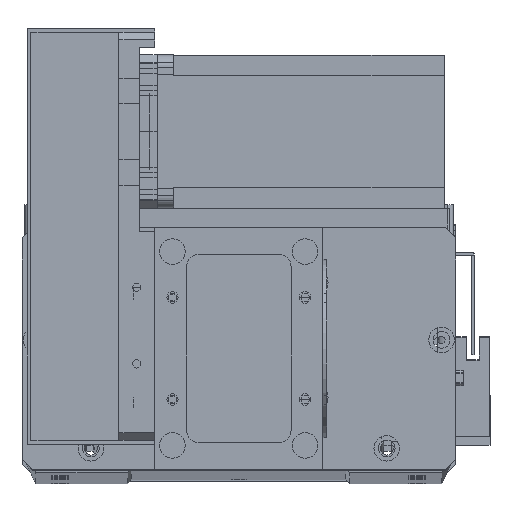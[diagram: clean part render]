
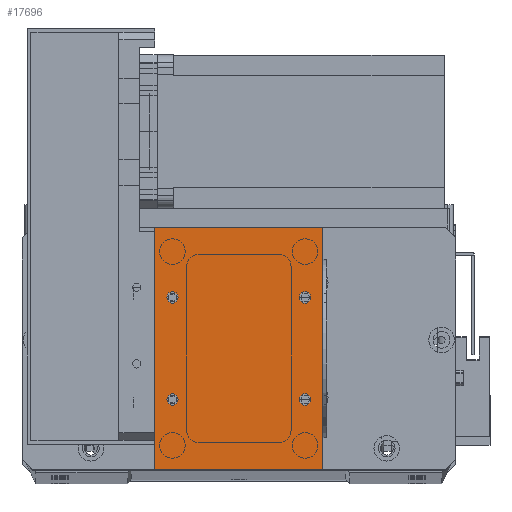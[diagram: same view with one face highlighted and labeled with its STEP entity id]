
A CAD part, top view. The second image highlights one B-rep face of the part: STEP entity #17696.
In plain terms, the highlighted planar face has unit normal (0, 0, 1).
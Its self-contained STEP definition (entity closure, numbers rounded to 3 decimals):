
#98 = LINE ( 'NONE', #32540, #27104 ) ;
#137 = AXIS2_PLACEMENT_3D ( 'NONE', #20343, #4631, #22936 ) ;
#183 = ORIENTED_EDGE ( 'NONE', *, *, #9936, .T. ) ;
#423 = EDGE_LOOP ( 'NONE', ( #29630, #813 ) ) ;
#566 = EDGE_LOOP ( 'NONE', ( #14126, #20126 ) ) ;
#680 = ORIENTED_EDGE ( 'NONE', *, *, #9781, .F. ) ;
#813 = ORIENTED_EDGE ( 'NONE', *, *, #31979, .F. ) ;
#1108 = CIRCLE ( 'NONE', #12745, 2.25 ) ;
#1715 = CARTESIAN_POINT ( 'NONE',  ( 0., 0., 2. ) ) ;
#1872 = CARTESIAN_POINT ( 'NONE',  ( 4.75, 27.5, 2. ) ) ;
#2019 = VERTEX_POINT ( 'NONE', #28568 ) ;
#2025 = EDGE_CURVE ( 'NONE', #27644, #2419, #22647, .T. ) ;
#2419 = VERTEX_POINT ( 'NONE', #12682 ) ;
#2570 = VECTOR ( 'NONE', #26040, 1000. ) ;
#2941 = CARTESIAN_POINT ( 'NONE',  ( 66., 0., 2. ) ) ;
#3159 = EDGE_LOOP ( 'NONE', ( #27679, #18419 ) ) ;
#3311 = EDGE_CURVE ( 'NONE', #2019, #19807, #12752, .T. ) ;
#3390 = VERTEX_POINT ( 'NONE', #19901 ) ;
#3766 = FACE_BOUND ( 'NONE', #566, .T. ) ;
#3945 = CIRCLE ( 'NONE', #5704, 2.25 ) ;
#4112 = AXIS2_PLACEMENT_3D ( 'NONE', #6244, #24556, #8884 ) ;
#4333 = CIRCLE ( 'NONE', #137, 2.25 ) ;
#4429 = DIRECTION ( 'NONE',  ( 0., 0., -1. ) ) ;
#4631 = DIRECTION ( 'NONE',  ( 0., 0., 1. ) ) ;
#4838 = EDGE_LOOP ( 'NONE', ( #680, #14707 ) ) ;
#4949 = CIRCLE ( 'NONE', #12292, 2.25 ) ;
#4991 = ORIENTED_EDGE ( 'NONE', *, *, #17581, .T. ) ;
#5111 = CARTESIAN_POINT ( 'NONE',  ( 0., 0., 2. ) ) ;
#5704 = AXIS2_PLACEMENT_3D ( 'NONE', #30830, #15224, #33428 ) ;
#5834 = ORIENTED_EDGE ( 'NONE', *, *, #26594, .T. ) ;
#6244 = CARTESIAN_POINT ( 'NONE',  ( 7., 27.5, 2. ) ) ;
#6371 = EDGE_CURVE ( 'NONE', #19264, #28240, #28930, .T. ) ;
#6680 = CIRCLE ( 'NONE', #21573, 2.25 ) ;
#7200 = CARTESIAN_POINT ( 'NONE',  ( 61.25, 67.5, 2. ) ) ;
#8884 = DIRECTION ( 'NONE',  ( 1., 0., 0. ) ) ;
#9781 = EDGE_CURVE ( 'NONE', #2419, #27644, #6680, .T. ) ;
#9936 = EDGE_CURVE ( 'NONE', #28240, #24590, #16522, .T. ) ;
#9969 = VERTEX_POINT ( 'NONE', #26150 ) ;
#10069 = CARTESIAN_POINT ( 'NONE',  ( 4.75, 67.5, 2. ) ) ;
#10396 = CARTESIAN_POINT ( 'NONE',  ( 0., 0., 2. ) ) ;
#10458 = DIRECTION ( 'NONE',  ( 0., 0., 1. ) ) ;
#10737 = FACE_BOUND ( 'NONE', #423, .T. ) ;
#11706 = DIRECTION ( 'NONE',  ( 0., 0., 1. ) ) ;
#12201 = CARTESIAN_POINT ( 'NONE',  ( 59., 67.5, 2. ) ) ;
#12292 = AXIS2_PLACEMENT_3D ( 'NONE', #26088, #10458, #28730 ) ;
#12495 = CARTESIAN_POINT ( 'NONE',  ( 7., 67.5, 2. ) ) ;
#12682 = CARTESIAN_POINT ( 'NONE',  ( 9.25, 67.5, 2. ) ) ;
#12745 = AXIS2_PLACEMENT_3D ( 'NONE', #27362, #11706, #29974 ) ;
#12752 = CIRCLE ( 'NONE', #4112, 2.25 ) ;
#13497 = CARTESIAN_POINT ( 'NONE',  ( 7., 67.5, 2. ) ) ;
#14126 = ORIENTED_EDGE ( 'NONE', *, *, #18450, .F. ) ;
#14226 = EDGE_CURVE ( 'NONE', #23288, #3390, #1108, .T. ) ;
#14296 = DIRECTION ( 'NONE',  ( 0., 1., 0. ) ) ;
#14347 = CIRCLE ( 'NONE', #26704, 2.25 ) ;
#14707 = ORIENTED_EDGE ( 'NONE', *, *, #2025, .F. ) ;
#14845 = DIRECTION ( 'NONE',  ( 1., 0., 0. ) ) ;
#15143 = DIRECTION ( 'NONE',  ( 1., 0., 0. ) ) ;
#15224 = DIRECTION ( 'NONE',  ( 0., 0., 1. ) ) ;
#15571 = EDGE_CURVE ( 'NONE', #19807, #2019, #4333, .T. ) ;
#16012 = AXIS2_PLACEMENT_3D ( 'NONE', #1715, #4429, #22732 ) ;
#16149 = DIRECTION ( 'NONE',  ( 1., 0., 0. ) ) ;
#16283 = EDGE_LOOP ( 'NONE', ( #21370, #183, #4991, #5834 ) ) ;
#16522 = LINE ( 'NONE', #10396, #2570 ) ;
#17581 = EDGE_CURVE ( 'NONE', #24590, #26141, #98, .T. ) ;
#17696 = ADVANCED_FACE ( 'NONE', ( #31582, #10737, #3766, #30785, #32387 ), #20141, .F. ) ;
#17933 = AXIS2_PLACEMENT_3D ( 'NONE', #13497, #31749, #16149 ) ;
#18295 = VECTOR ( 'NONE', #30047, 1000. ) ;
#18419 = ORIENTED_EDGE ( 'NONE', *, *, #15571, .F. ) ;
#18450 = EDGE_CURVE ( 'NONE', #9969, #22214, #4949, .T. ) ;
#19264 = VERTEX_POINT ( 'NONE', #25462 ) ;
#19807 = VERTEX_POINT ( 'NONE', #1872 ) ;
#19901 = CARTESIAN_POINT ( 'NONE',  ( 56.75, 67.5, 2. ) ) ;
#20126 = ORIENTED_EDGE ( 'NONE', *, *, #32191, .F. ) ;
#20141 = PLANE ( 'NONE',  #16012 ) ;
#20318 = DIRECTION ( 'NONE',  ( 0., -1., 0. ) ) ;
#20343 = CARTESIAN_POINT ( 'NONE',  ( 7., 27.5, 2. ) ) ;
#21370 = ORIENTED_EDGE ( 'NONE', *, *, #6371, .T. ) ;
#21573 = AXIS2_PLACEMENT_3D ( 'NONE', #12495, #30754, #15143 ) ;
#22214 = VERTEX_POINT ( 'NONE', #23605 ) ;
#22647 = CIRCLE ( 'NONE', #17933, 2.25 ) ;
#22732 = DIRECTION ( 'NONE',  ( -1., 0., 0. ) ) ;
#22936 = DIRECTION ( 'NONE',  ( 1., 0., 0. ) ) ;
#23288 = VERTEX_POINT ( 'NONE', #7200 ) ;
#23605 = CARTESIAN_POINT ( 'NONE',  ( 56.75, 27.5, 2. ) ) ;
#24556 = DIRECTION ( 'NONE',  ( 0., 0., 1. ) ) ;
#24590 = VERTEX_POINT ( 'NONE', #2941 ) ;
#25462 = CARTESIAN_POINT ( 'NONE',  ( 0., 95., 2. ) ) ;
#26040 = DIRECTION ( 'NONE',  ( 1., 0., 0. ) ) ;
#26088 = CARTESIAN_POINT ( 'NONE',  ( 59., 27.5, 2. ) ) ;
#26141 = VERTEX_POINT ( 'NONE', #27797 ) ;
#26150 = CARTESIAN_POINT ( 'NONE',  ( 61.25, 27.5, 2. ) ) ;
#26594 = EDGE_CURVE ( 'NONE', #26141, #19264, #27675, .T. ) ;
#26704 = AXIS2_PLACEMENT_3D ( 'NONE', #12201, #30474, #14845 ) ;
#27104 = VECTOR ( 'NONE', #14296, 1000. ) ;
#27362 = CARTESIAN_POINT ( 'NONE',  ( 59., 67.5, 2. ) ) ;
#27644 = VERTEX_POINT ( 'NONE', #10069 ) ;
#27675 = LINE ( 'NONE', #32658, #18295 ) ;
#27679 = ORIENTED_EDGE ( 'NONE', *, *, #3311, .F. ) ;
#27797 = CARTESIAN_POINT ( 'NONE',  ( 66., 95., 2. ) ) ;
#28049 = CARTESIAN_POINT ( 'NONE',  ( 0., 0., 2. ) ) ;
#28240 = VERTEX_POINT ( 'NONE', #5111 ) ;
#28568 = CARTESIAN_POINT ( 'NONE',  ( 9.25, 27.5, 2. ) ) ;
#28730 = DIRECTION ( 'NONE',  ( 1., 0., 0. ) ) ;
#28930 = LINE ( 'NONE', #28049, #33415 ) ;
#29630 = ORIENTED_EDGE ( 'NONE', *, *, #14226, .F. ) ;
#29974 = DIRECTION ( 'NONE',  ( 1., 0., 0. ) ) ;
#30047 = DIRECTION ( 'NONE',  ( -1., 0., 0. ) ) ;
#30474 = DIRECTION ( 'NONE',  ( 0., 0., 1. ) ) ;
#30754 = DIRECTION ( 'NONE',  ( 0., 0., 1. ) ) ;
#30785 = FACE_BOUND ( 'NONE', #3159, .T. ) ;
#30830 = CARTESIAN_POINT ( 'NONE',  ( 59., 27.5, 2. ) ) ;
#31582 = FACE_BOUND ( 'NONE', #4838, .T. ) ;
#31749 = DIRECTION ( 'NONE',  ( 0., 0., 1. ) ) ;
#31979 = EDGE_CURVE ( 'NONE', #3390, #23288, #14347, .T. ) ;
#32191 = EDGE_CURVE ( 'NONE', #22214, #9969, #3945, .T. ) ;
#32387 = FACE_OUTER_BOUND ( 'NONE', #16283, .T. ) ;
#32540 = CARTESIAN_POINT ( 'NONE',  ( 66., 0., 2. ) ) ;
#32658 = CARTESIAN_POINT ( 'NONE',  ( 0., 95., 2. ) ) ;
#33415 = VECTOR ( 'NONE', #20318, 1000. ) ;
#33428 = DIRECTION ( 'NONE',  ( 1., 0., 0. ) ) ;
